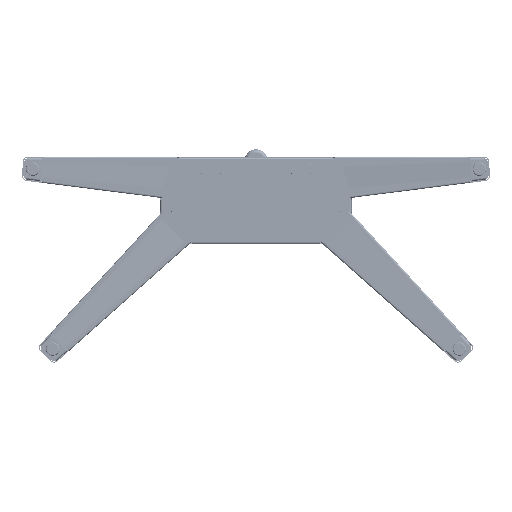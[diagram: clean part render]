
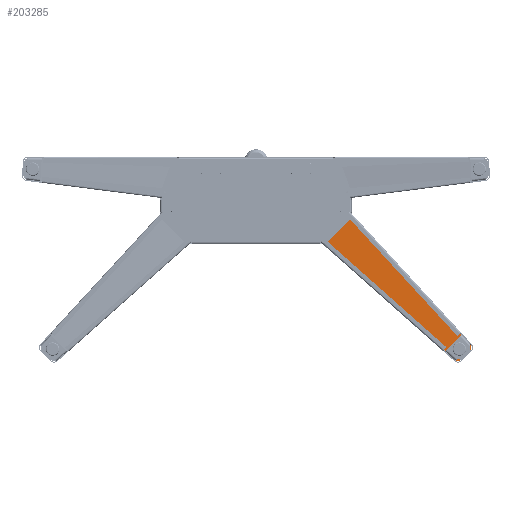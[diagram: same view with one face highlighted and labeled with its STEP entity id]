
A CAD part, left-side view. The second image highlights one B-rep face of the part: STEP entity #203285.
In plain terms, the highlighted planar face has unit normal (-0.999, 0.034, 0.033) as drawn and (0.034, -0.999, -0.033) by its records, which use the part's own axes.
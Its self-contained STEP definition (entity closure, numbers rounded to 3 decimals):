
#201602=CARTESIAN_POINT('',(-589.553,26.187,
462.814));
#201603=CARTESIAN_POINT('',(-589.991,26.16,
463.177));
#201604=CARTESIAN_POINT('',(-590.871,26.108,
463.82));
#201605=CARTESIAN_POINT('',(-592.204,26.038,
464.555));
#201606=CARTESIAN_POINT('',(-593.593,25.975,
465.045));
#201607=CARTESIAN_POINT('',(-595.074,25.915,
465.309));
#201608=CARTESIAN_POINT('',(-596.664,25.859,
465.374));
#201609=CARTESIAN_POINT('',(-598.239,25.812,
465.166));
#201610=CARTESIAN_POINT('',(-599.681,25.777,
464.747));
#201611=CARTESIAN_POINT('',(-601.017,25.752,
464.146));
#201612=CARTESIAN_POINT('',(-602.203,25.737,
463.363));
#201613=CARTESIAN_POINT('',(-602.972,25.734,
462.718));
#201614=CARTESIAN_POINT('',(-603.34,25.734,
462.358));
#201620=DIRECTION('',(-0.676,-0.048,0.735));
#201621=VECTOR('',#201620,531.126);
#201622=CARTESIAN_POINT('',(-273.484,51.496,
28.513));
#201623=LINE('',#201622,#201621);
#201624=DIRECTION('',(0.747,0.048,-0.663));
#201625=VECTOR('',#201624,531.121);
#201626=CARTESIAN_POINT('',(-589.553,26.187,
462.814));
#201627=LINE('',#201626,#201625);
#201628=CARTESIAN_POINT('',(-273.397,51.502,
28.423));
#201629=CARTESIAN_POINT('',(-273.406,51.502,
28.432));
#201630=CARTESIAN_POINT('',(-273.426,51.5,
28.453));
#201631=CARTESIAN_POINT('',(-273.455,51.498,
28.483));
#201632=CARTESIAN_POINT('',(-273.474,51.497,
28.503));
#201633=CARTESIAN_POINT('',(-273.484,51.496,
28.513));
#201793=DIRECTION('',(0.701,0.,0.713));
#201794=VECTOR('',#201793,115.992);
#201795=CARTESIAN_POINT('',(-273.397,51.502,
28.423));
#201796=LINE('',#201795,#201794);
#202373=CARTESIAN_POINT('',(-192.046,51.503,
111.104));
#202374=CARTESIAN_POINT('',(-192.13,51.501,
111.079));
#202375=CARTESIAN_POINT('',(-192.287,51.502,
111.001));
#202376=CARTESIAN_POINT('',(-192.471,51.499,
110.856));
#202377=CARTESIAN_POINT('',(-192.669,51.498,
110.712));
#202378=CARTESIAN_POINT('',(-192.808,51.497,
110.598));
#202379=CARTESIAN_POINT('',(-192.879,51.496,
110.537));
#202452=DIRECTION('',(-0.701,0.,-0.713));
#202453=VECTOR('',#202452,41.477);
#202454=CARTESIAN_POINT('',(-603.34,25.734,
462.358));
#202455=LINE('',#202454,#202453);
#202538=CARTESIAN_POINT('',(-632.411,25.734,
432.774));
#202539=CARTESIAN_POINT('',(-632.719,25.734,
432.439));
#202540=CARTESIAN_POINT('',(-633.299,25.737,
431.721));
#202541=CARTESIAN_POINT('',(-634.113,25.751,
430.499));
#202542=CARTESIAN_POINT('',(-634.726,25.774,
429.162));
#202543=CARTESIAN_POINT('',(-635.117,25.81,
427.693));
#202544=CARTESIAN_POINT('',(-635.302,25.856,
426.149));
#202545=CARTESIAN_POINT('',(-635.242,25.91,
424.591));
#202546=CARTESIAN_POINT('',(-634.949,25.968,
423.149));
#202547=CARTESIAN_POINT('',(-634.473,26.031,
421.753));
#202548=CARTESIAN_POINT('',(-633.759,26.102,
420.374));
#202549=CARTESIAN_POINT('',(-633.044,26.157,
419.446));
#202550=CARTESIAN_POINT('',(-632.63,26.187,
418.984));
#202895=CARTESIAN_POINT('',(-603.34,25.734,
462.358));
#202896=VERTEX_POINT('',#202895);
#202899=VERTEX_POINT('',#201602);
#202900=CARTESIAN_POINT('',(-273.484,51.496,
28.513));
#202901=CARTESIAN_POINT('',(-632.63,26.187,
418.984));
#202902=VERTEX_POINT('',#202900);
#202903=VERTEX_POINT('',#202901);
#202904=VERTEX_POINT('',#202538);
#202905=CARTESIAN_POINT('',(-192.879,51.496,
110.537));
#202906=VERTEX_POINT('',#202905);
#202907=VERTEX_POINT('',#202373);
#202908=CARTESIAN_POINT('',(-273.397,51.502,
28.423));
#202909=VERTEX_POINT('',#202908);
#203263=CARTESIAN_POINT('',(-285.641,51.503,
15.928));
#203264=DIRECTION('',(-0.034,0.999,0.033));
#203265=DIRECTION('',(-0.712,-0.048,0.7));
#203266=AXIS2_PLACEMENT_3D('',#203263,#203264,#203265);
#203267=PLANE('',#203266);
#203269=ORIENTED_EDGE('',*,*,#203268,.T.);
#203271=ORIENTED_EDGE('',*,*,#203270,.F.);
#203273=ORIENTED_EDGE('',*,*,#203272,.F.);
#203274=ORIENTED_EDGE('',*,*,#203254,.F.);
#203276=ORIENTED_EDGE('',*,*,#203275,.T.);
#203278=ORIENTED_EDGE('',*,*,#203277,.F.);
#203280=ORIENTED_EDGE('',*,*,#203279,.F.);
#203282=ORIENTED_EDGE('',*,*,#203281,.T.);
#203283=EDGE_LOOP('',(#203269,#203271,#203273,#203274,#203276,#203278,#203280,
#203282));
#203284=FACE_OUTER_BOUND('',#203283,.F.);
#203285=ADVANCED_FACE('',(#203284),#203267,.F.);
#201615=B_SPLINE_CURVE_WITH_KNOTS('',3,(#201602,#201603,#201604,#201605,#201606,
#201607,#201608,#201609,#201610,#201611,#201612,#201613,#201614),.UNSPECIFIED.,
.F.,.F.,(4,1,1,1,1,1,1,1,1,1,4),(0.,0.1,0.2,0.3,0.4,0.5,0.6,0.7,
0.8,0.9,1.),.UNSPECIFIED.);
#201634=B_SPLINE_CURVE_WITH_KNOTS('',3,(#201628,#201629,#201630,#201631,#201632,
#201633),.UNSPECIFIED.,.F.,.F.,(4,1,1,4),(0.,0.333,
0.667,1.),.UNSPECIFIED.);
#202380=B_SPLINE_CURVE_WITH_KNOTS('',3,(#202373,#202374,#202375,#202376,#202377,
#202378,#202379),.UNSPECIFIED.,.F.,.F.,(4,1,1,1,4),(0.,0.25,0.5,0.75,
1.),.UNSPECIFIED.);
#202551=B_SPLINE_CURVE_WITH_KNOTS('',3,(#202538,#202539,#202540,#202541,#202542,
#202543,#202544,#202545,#202546,#202547,#202548,#202549,#202550),.UNSPECIFIED.,
.F.,.F.,(4,1,1,1,1,1,1,1,1,1,4),(0.,0.1,0.2,0.3,0.4,0.5,0.6,0.7,
0.8,0.9,1.),.UNSPECIFIED.);
#203254=EDGE_CURVE('',#202899,#202896,#201615,.T.);
#203268=EDGE_CURVE('',#202902,#202903,#201623,.T.);
#203270=EDGE_CURVE('',#202904,#202903,#202551,.T.);
#203272=EDGE_CURVE('',#202896,#202904,#202455,.T.);
#203275=EDGE_CURVE('',#202899,#202906,#201627,.T.);
#203277=EDGE_CURVE('',#202907,#202906,#202380,.T.);
#203279=EDGE_CURVE('',#202909,#202907,#201796,.T.);
#203281=EDGE_CURVE('',#202909,#202902,#201634,.T.);
